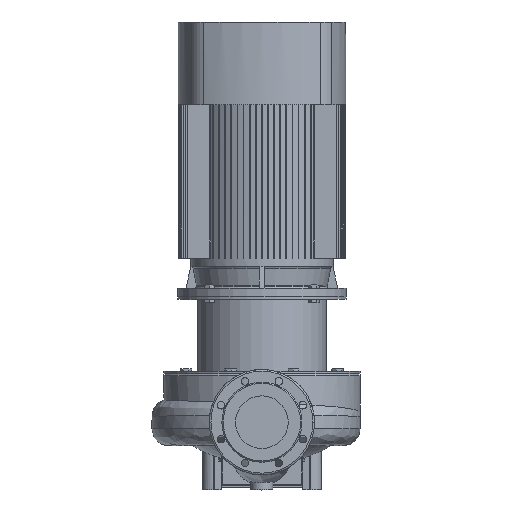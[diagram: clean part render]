
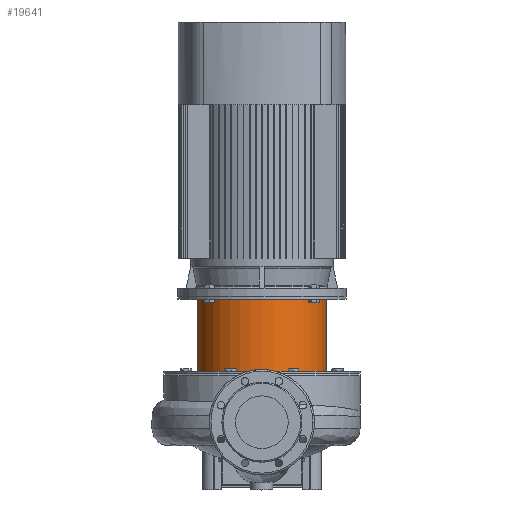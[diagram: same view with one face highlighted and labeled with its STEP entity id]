
A CAD part, top view. The second image highlights one B-rep face of the part: STEP entity #19641.
In plain terms, the highlighted cylindrical face has radius 153 mm (diameter 306 mm), a partial arc.
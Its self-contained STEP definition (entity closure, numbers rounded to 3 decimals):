
#672 = CARTESIAN_POINT ( 'NONE',  ( -153., 0., 14.36 ) ) ;
#1254 = VECTOR ( 'NONE', #6918, 1000. ) ;
#1444 = VERTEX_POINT ( 'NONE', #14027 ) ;
#2260 = CIRCLE ( 'NONE', #27768, 153. ) ;
#2901 = DIRECTION ( 'NONE',  ( 0., 0., 1. ) ) ;
#5008 = DIRECTION ( 'NONE',  ( 0., 0., 1. ) ) ;
#5124 = EDGE_CURVE ( 'NONE', #16976, #1444, #19840, .T. ) ;
#5551 = CARTESIAN_POINT ( 'NONE',  ( -153., 0., -177. ) ) ;
#5964 = VERTEX_POINT ( 'NONE', #22643 ) ;
#6064 = CYLINDRICAL_SURFACE ( 'NONE', #19775, 153. ) ;
#6598 = CARTESIAN_POINT ( 'NONE',  ( 153., 0., -6. ) ) ;
#6918 = DIRECTION ( 'NONE',  ( 0., 0., 1. ) ) ;
#10985 = DIRECTION ( 'NONE',  ( 1., 0., 0. ) ) ;
#12286 = VECTOR ( 'NONE', #29225, 1000. ) ;
#12653 = DIRECTION ( 'NONE',  ( 1., 0., 0. ) ) ;
#13133 = AXIS2_PLACEMENT_3D ( 'NONE', #17587, #2901, #12653 ) ;
#13733 = VERTEX_POINT ( 'NONE', #6598 ) ;
#14027 = CARTESIAN_POINT ( 'NONE',  ( -153., 0., -6. ) ) ;
#14994 = ORIENTED_EDGE ( 'NONE', *, *, #30476, .T. ) ;
#16360 = ORIENTED_EDGE ( 'NONE', *, *, #19112, .T. ) ;
#16976 = VERTEX_POINT ( 'NONE', #5551 ) ;
#17587 = CARTESIAN_POINT ( 'NONE',  ( 0., 0., -177. ) ) ;
#18429 = EDGE_LOOP ( 'NONE', ( #23354, #16360, #14994, #23936 ) ) ;
#19112 = EDGE_CURVE ( 'NONE', #16976, #5964, #23308, .T. ) ;
#19537 = LINE ( 'NONE', #23999, #1254 ) ;
#19641 = ADVANCED_FACE ( 'NONE', ( #20738 ), #6064, .T. ) ;
#19775 = AXIS2_PLACEMENT_3D ( 'NONE', #30443, #24888, #10985 ) ;
#19840 = LINE ( 'NONE', #672, #12286 ) ;
#20738 = FACE_OUTER_BOUND ( 'NONE', #18429, .T. ) ;
#22643 = CARTESIAN_POINT ( 'NONE',  ( 153., 0., -177. ) ) ;
#23308 = CIRCLE ( 'NONE', #13133, 153. ) ;
#23354 = ORIENTED_EDGE ( 'NONE', *, *, #5124, .F. ) ;
#23936 = ORIENTED_EDGE ( 'NONE', *, *, #30521, .F. ) ;
#23999 = CARTESIAN_POINT ( 'NONE',  ( 153., 0., 14.36 ) ) ;
#24888 = DIRECTION ( 'NONE',  ( 0., 0., 1. ) ) ;
#26690 = CARTESIAN_POINT ( 'NONE',  ( 0., 0., -6. ) ) ;
#27768 = AXIS2_PLACEMENT_3D ( 'NONE', #26690, #5008, #31473 ) ;
#29225 = DIRECTION ( 'NONE',  ( 0., 0., 1. ) ) ;
#30443 = CARTESIAN_POINT ( 'NONE',  ( 0., 0., 14.36 ) ) ;
#30476 = EDGE_CURVE ( 'NONE', #5964, #13733, #19537, .T. ) ;
#30521 = EDGE_CURVE ( 'NONE', #1444, #13733, #2260, .T. ) ;
#31473 = DIRECTION ( 'NONE',  ( 1., 0., 0. ) ) ;
